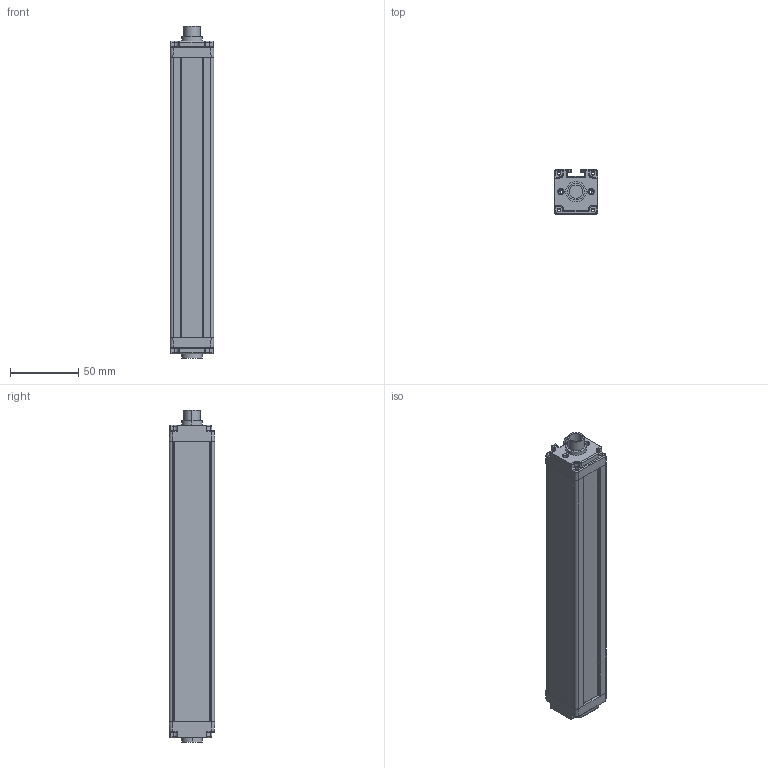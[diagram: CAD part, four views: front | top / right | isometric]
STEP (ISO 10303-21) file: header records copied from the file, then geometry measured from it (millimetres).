
FILE_DESCRIPTION(/* description */ (''),/* implementation_level */ '2;1');
FILE_NAME(/* name */ 'TYG10-18.stp',/* time_stamp */ '2023-08-25T10:42:38+08:00',/* author */ (''),/* organization */ (''),/* preprocessor_version */ 'ST-DEVELOPER v16',/* originating_system */ 'SIEMENS PLM Software NX 11.0',/* authorisation */ '');
FILE_SCHEMA (('AUTOMOTIVE_DESIGN { 1 0 10303 214 3 1 1 1 }'));
Length unit declared in the file: millimetre
Products named in the file (5): YAKELI; B-0823; K-0823; 20230331; TYG10-_stp
Assembly tree (4 placements, depth 2):
  TYG10-_stp
    20230331
    K-0823
    B-0823
    YAKELI
Bounding box: 31.87 x 33.07 x 243 mm (x, y, z)
Volume: 78795.2 mm3; surface area: 84270 mm2
Topology: 4 solids, 4 shells, 629 faces, 1887 edges, 1256 vertices
Faces by surface type: plane 346, cylinder 203, cone 36, sphere 16, torus 16, extrusion 8, bspline 4
Entity records: 21872 total; most frequent: CARTESIAN_POINT 4472, ORIENTED_EDGE 3758, DIRECTION 3552, EDGE_CURVE 1879, VERTEX_POINT 1256, AXIS2_PLACEMENT_3D 1188, VECTOR 1176, LINE 1168
